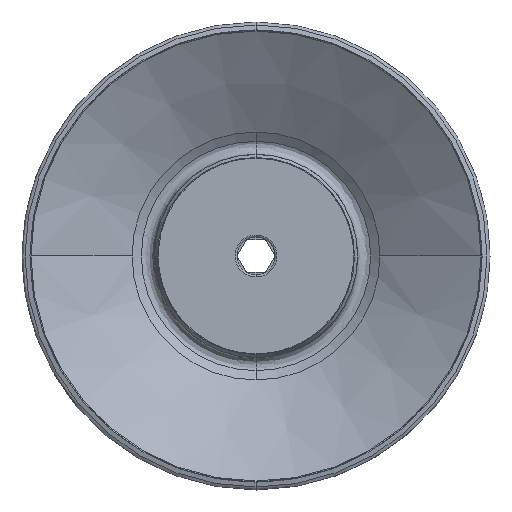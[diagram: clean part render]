
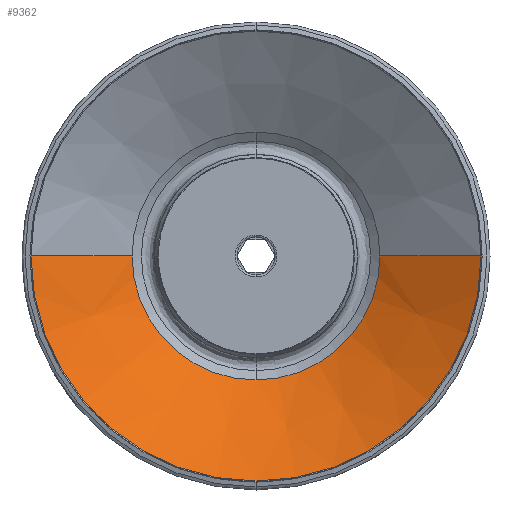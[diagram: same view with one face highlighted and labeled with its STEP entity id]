
A CAD part, front view. The second image highlights one B-rep face of the part: STEP entity #9362.
In plain terms, the highlighted conical face has half-angle 58.457 degrees and reference radius 55.3 mm.
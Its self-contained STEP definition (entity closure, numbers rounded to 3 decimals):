
#218 = CARTESIAN_POINT ( 'NONE',  ( 30.463, -27.348, 0. ) ) ;
#443 = DIRECTION ( 'NONE',  ( 0., 0., -1. ) ) ;
#558 = VERTEX_POINT ( 'NONE', #13726 ) ;
#674 = CARTESIAN_POINT ( 'NONE',  ( -55.3, -42.593, 0. ) ) ;
#755 = VECTOR ( 'NONE', #2561, 1000. ) ;
#1582 = EDGE_CURVE ( 'NONE', #15370, #1918, #6117, .T. ) ;
#1753 = VERTEX_POINT ( 'NONE', #10058 ) ;
#1918 = VERTEX_POINT ( 'NONE', #14289 ) ;
#2214 = DIRECTION ( 'NONE',  ( 1., 0., 0. ) ) ;
#2561 = DIRECTION ( 'NONE',  ( 0.852, -0.523, 0. ) ) ;
#2665 = CARTESIAN_POINT ( 'NONE',  ( 0., -42.593, 0. ) ) ;
#2997 = AXIS2_PLACEMENT_3D ( 'NONE', #16653, #8533, #443 ) ;
#3018 = ORIENTED_EDGE ( 'NONE', *, *, #9310, .T. ) ;
#3793 = LINE ( 'NONE', #17039, #10975 ) ;
#3927 = CARTESIAN_POINT ( 'NONE',  ( 55.3, -42.593, 0. ) ) ;
#4024 = DIRECTION ( 'NONE',  ( 0., 0., -1. ) ) ;
#4263 = DIRECTION ( 'NONE',  ( 0., -1., 0. ) ) ;
#4760 = EDGE_CURVE ( 'NONE', #1753, #558, #13076, .T. ) ;
#4966 = ORIENTED_EDGE ( 'NONE', *, *, #4760, .F. ) ;
#5008 = DIRECTION ( 'NONE',  ( 0., -1., 0. ) ) ;
#5186 = LINE ( 'NONE', #3927, #755 ) ;
#5331 = EDGE_CURVE ( 'NONE', #1918, #7240, #7317, .T. ) ;
#6117 = CIRCLE ( 'NONE', #14342, 30.463 ) ;
#6615 = VERTEX_POINT ( 'NONE', #674 ) ;
#6952 = FACE_OUTER_BOUND ( 'NONE', #14992, .T. ) ;
#7000 = CIRCLE ( 'NONE', #2997, 55.3 ) ;
#7240 = VERTEX_POINT ( 'NONE', #218 ) ;
#7317 = CIRCLE ( 'NONE', #13822, 30.463 ) ;
#8533 = DIRECTION ( 'NONE',  ( 0., 1., 0. ) ) ;
#9310 = EDGE_CURVE ( 'NONE', #15370, #6615, #3793, .T. ) ;
#9362 = ADVANCED_FACE ( 'NONE', ( #6952 ), #12479, .F. ) ;
#9716 = AXIS2_PLACEMENT_3D ( 'NONE', #10315, #14375, #2214 ) ;
#9926 = AXIS2_PLACEMENT_3D ( 'NONE', #2665, #12141, #4024 ) ;
#10024 = ORIENTED_EDGE ( 'NONE', *, *, #12636, .F. ) ;
#10058 = CARTESIAN_POINT ( 'NONE',  ( 55.3, -42.593, 0. ) ) ;
#10315 = CARTESIAN_POINT ( 'NONE',  ( 0., -42.593, 0. ) ) ;
#10975 = VECTOR ( 'NONE', #16860, 1000. ) ;
#11165 = ORIENTED_EDGE ( 'NONE', *, *, #15123, .F. ) ;
#12141 = DIRECTION ( 'NONE',  ( 0., 1., 0. ) ) ;
#12401 = CARTESIAN_POINT ( 'NONE',  ( 0., -27.348, 0. ) ) ;
#12479 = CONICAL_SURFACE ( 'NONE', #9716, 55.3, 1.02 ) ;
#12636 = EDGE_CURVE ( 'NONE', #7240, #1753, #5186, .T. ) ;
#13076 = CIRCLE ( 'NONE', #9926, 55.3 ) ;
#13134 = CARTESIAN_POINT ( 'NONE',  ( 0., -27.348, 0. ) ) ;
#13381 = ORIENTED_EDGE ( 'NONE', *, *, #5331, .F. ) ;
#13726 = CARTESIAN_POINT ( 'NONE',  ( 0., -42.593, -55.3 ) ) ;
#13760 = DIRECTION ( 'NONE',  ( 0., 0., -1. ) ) ;
#13822 = AXIS2_PLACEMENT_3D ( 'NONE', #13134, #5008, #14495 ) ;
#14289 = CARTESIAN_POINT ( 'NONE',  ( 0., -27.348, -30.463 ) ) ;
#14342 = AXIS2_PLACEMENT_3D ( 'NONE', #12401, #4263, #13760 ) ;
#14375 = DIRECTION ( 'NONE',  ( 0., -1., 0. ) ) ;
#14495 = DIRECTION ( 'NONE',  ( 0., 0., -1. ) ) ;
#14731 = ORIENTED_EDGE ( 'NONE', *, *, #1582, .F. ) ;
#14992 = EDGE_LOOP ( 'NONE', ( #14731, #3018, #11165, #4966, #10024, #13381 ) ) ;
#15123 = EDGE_CURVE ( 'NONE', #558, #6615, #7000, .T. ) ;
#15370 = VERTEX_POINT ( 'NONE', #16710 ) ;
#16653 = CARTESIAN_POINT ( 'NONE',  ( 0., -42.593, 0. ) ) ;
#16710 = CARTESIAN_POINT ( 'NONE',  ( -30.463, -27.348, 0. ) ) ;
#16860 = DIRECTION ( 'NONE',  ( -0.852, -0.523, 0. ) ) ;
#17039 = CARTESIAN_POINT ( 'NONE',  ( -55.3, -42.593, 0. ) ) ;
